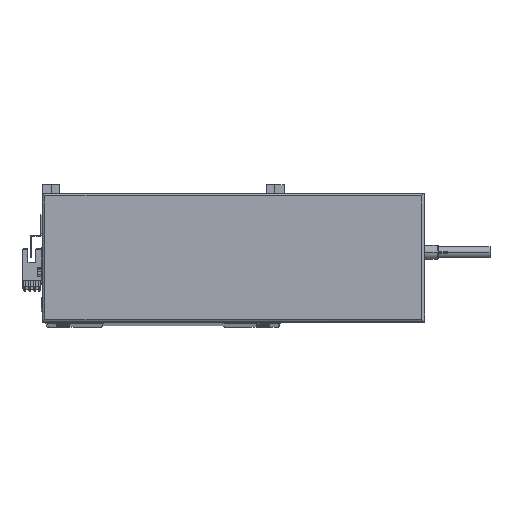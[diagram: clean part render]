
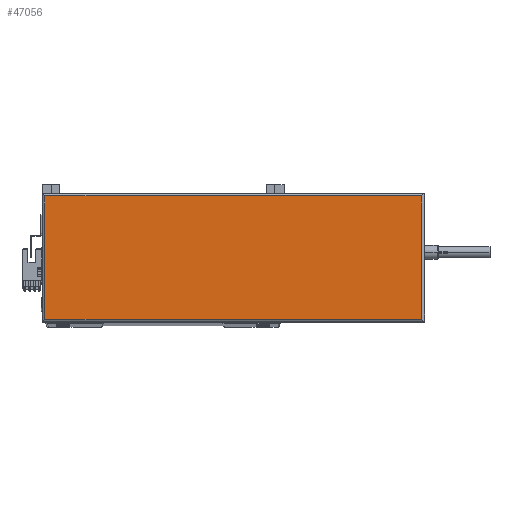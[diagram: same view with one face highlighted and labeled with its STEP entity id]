
A CAD part, top view. The second image highlights one B-rep face of the part: STEP entity #47056.
In plain terms, the highlighted planar face has unit normal (0, 0, 1).
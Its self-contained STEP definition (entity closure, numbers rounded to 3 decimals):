
#155 = PLANE ( 'NONE',  #2889 ) ;
#668 = CARTESIAN_POINT ( 'NONE',  ( 2., 0., 44.8 ) ) ;
#1374 = LINE ( 'NONE', #46418, #32789 ) ;
#2889 = AXIS2_PLACEMENT_3D ( 'NONE', #49144, #12331, #8397 ) ;
#5000 = VERTEX_POINT ( 'NONE', #19793 ) ;
#5773 = EDGE_CURVE ( 'NONE', #11567, #9140, #37364, .T. ) ;
#7136 = CARTESIAN_POINT ( 'NONE',  ( 265., 88., 44.8 ) ) ;
#8356 = VECTOR ( 'NONE', #21093, 1000. ) ;
#8397 = DIRECTION ( 'NONE',  ( 1., 0., 0. ) ) ;
#9140 = VERTEX_POINT ( 'NONE', #44067 ) ;
#11567 = VERTEX_POINT ( 'NONE', #7136 ) ;
#12331 = DIRECTION ( 'NONE',  ( 0., 0., 1. ) ) ;
#13471 = ORIENTED_EDGE ( 'NONE', *, *, #5773, .T. ) ;
#17921 = EDGE_CURVE ( 'NONE', #9140, #5000, #44997, .T. ) ;
#18912 = CARTESIAN_POINT ( 'NONE',  ( 0., 88., 44.8 ) ) ;
#19793 = CARTESIAN_POINT ( 'NONE',  ( 2., 2., 44.8 ) ) ;
#21093 = DIRECTION ( 'NONE',  ( 0., -1., 0. ) ) ;
#21241 = EDGE_CURVE ( 'NONE', #28184, #11567, #1374, .T. ) ;
#27734 = VECTOR ( 'NONE', #38659, 1000. ) ;
#28184 = VERTEX_POINT ( 'NONE', #41731 ) ;
#28334 = LINE ( 'NONE', #41109, #27734 ) ;
#29837 = DIRECTION ( 'NONE',  ( 0., 1., 0. ) ) ;
#30318 = ORIENTED_EDGE ( 'NONE', *, *, #40937, .T. ) ;
#32789 = VECTOR ( 'NONE', #29837, 1000. ) ;
#33012 = ORIENTED_EDGE ( 'NONE', *, *, #21241, .T. ) ;
#33151 = ORIENTED_EDGE ( 'NONE', *, *, #17921, .T. ) ;
#37364 = LINE ( 'NONE', #18912, #39301 ) ;
#38659 = DIRECTION ( 'NONE',  ( 1., 0., 0. ) ) ;
#39301 = VECTOR ( 'NONE', #44615, 1000. ) ;
#40937 = EDGE_CURVE ( 'NONE', #5000, #28184, #28334, .T. ) ;
#41109 = CARTESIAN_POINT ( 'NONE',  ( 267., 2., 44.8 ) ) ;
#41731 = CARTESIAN_POINT ( 'NONE',  ( 265., 2., 44.8 ) ) ;
#42059 = FACE_OUTER_BOUND ( 'NONE', #46510, .T. ) ;
#44067 = CARTESIAN_POINT ( 'NONE',  ( 2., 88., 44.8 ) ) ;
#44615 = DIRECTION ( 'NONE',  ( -1., 0., 0. ) ) ;
#44997 = LINE ( 'NONE', #668, #8356 ) ;
#46418 = CARTESIAN_POINT ( 'NONE',  ( 265., 90., 44.8 ) ) ;
#46510 = EDGE_LOOP ( 'NONE', ( #33012, #13471, #33151, #30318 ) ) ;
#47056 = ADVANCED_FACE ( 'NONE', ( #42059 ), #155, .T. ) ;
#49144 = CARTESIAN_POINT ( 'NONE',  ( 133.5, 45., 44.8 ) ) ;
